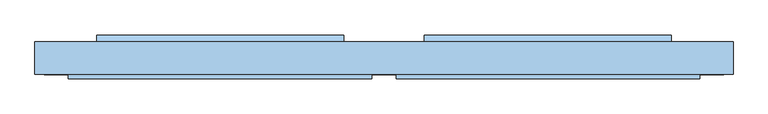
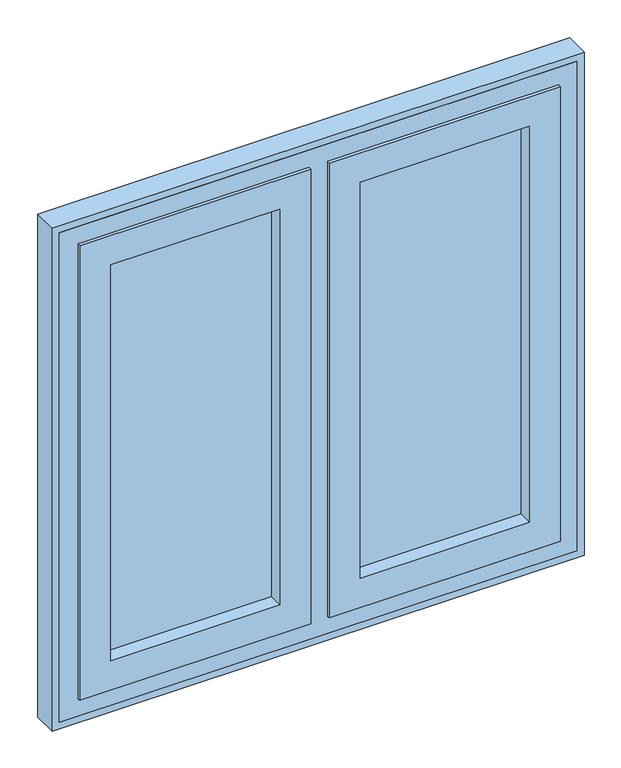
"""IFC4 building model written with IfcOpenShell, lengths in millimetres: window geometry, Окно.Alumark_двустворчатое_S70 : 1460х1460 (правое-откидное)."""

import ifcopenshell
import ifcopenshell.guid

model = None  # the IFC model being written
_history = None  # IfcOwnerHistory: only IFC2X3 demands one
_inside = {}  # id of a spatial element -> (the spatial element, [elements in it])
_under = {}  # id of a project, library or spatial element -> (it, [spatial elements below it])
_declared = {}  # id of a project -> (the project, [libraries it declares])
_typed = {}  # id of a type object -> (the type object, [elements of that type])
_made_of = {}  # id of a material, layer set ... -> (it, [elements and type objects made of it])


def new_model(schema):
    """Start an empty IFC model of exactly this schema.

    Asked for "IFC4X3", IfcOpenShell would pick the latest addendum, in which some entities
    have other attributes; the version numbers below select the first issue.
    IFC2X3 requires an IfcOwnerHistory on every rooted entity: one is made here for all.
    """
    global model, _history
    if schema == "IFC4X3":
        model = ifcopenshell.file(schema_version=(4, 3, 0, 0))
    else:
        model = ifcopenshell.file(schema=schema)
    _inside.clear()
    _under.clear()
    _declared.clear()
    _typed.clear()
    _made_of.clear()
    _history = None
    if model.schema == "IFC2X3":
        org = make("IfcOrganization", Name="unknown")
        user = make(
            "IfcPersonAndOrganization",
            ThePerson=make("IfcPerson", FamilyName="unknown"),
            TheOrganization=org,
        )
        app = make(
            "IfcApplication",
            ApplicationDeveloper=org,
            Version="unknown",
            ApplicationFullName="unknown",
            ApplicationIdentifier="unknown",
        )
        _history = make(
            "IfcOwnerHistory",
            OwningUser=user,
            OwningApplication=app,
            ChangeAction="ADDED",
            CreationDate=0,
        )
    return model


def make(cls, **values):
    """One entity of the class cls with the attributes given. An attribute that is None is left unset."""
    return model.create_entity(
        cls, **{name: value for name, value in values.items() if value is not None}
    )


def rooted(cls, **values):
    """An entity with a GlobalId (a new one), such as an element, a storey or a relation."""
    return make(cls, GlobalId=ifcopenshell.guid.new(), OwnerHistory=_history, **values)


def si_unit(unit_type, name, prefix=None):
    """IfcSIUnit, for example si_unit("LENGTHUNIT", "METRE", prefix="MILLI")."""
    return make("IfcSIUnit", UnitType=unit_type, Prefix=prefix, Name=name)


def assignment(units):
    """IfcUnitAssignment: the units of a project."""
    return None if units is None else make("IfcUnitAssignment", Units=units)


def point(xyz):
    """IfcCartesianPoint."""
    return None if xyz is None else make("IfcCartesianPoint", Coordinates=xyz)


def direction(xyz):
    """IfcDirection."""
    return None if xyz is None else make("IfcDirection", DirectionRatios=xyz)


def frame(location, z_axis=None, x_axis=None):
    """IfcAxis2Placement3D, a coordinate frame: its origin and axes. An axis left out is left unset."""
    return make(
        "IfcAxis2Placement3D",
        Location=point(location),
        Axis=direction(z_axis),
        RefDirection=direction(x_axis),
    )


def origin():
    """The frame at (0, 0, 0) with its axes left unset."""
    return frame((0.0, 0.0, 0.0))


def place(relative_to, where):
    """IfcLocalPlacement: puts the frame where relative to a parent placement (None: the world)."""
    return make(
        "IfcLocalPlacement", PlacementRelTo=relative_to, RelativePlacement=where
    )


def context(
    kind, dimensions, precision=None, world=None, true_north=None, identifier=None
):
    """IfcGeometricRepresentationContext, for example the 3D "Model" context."""
    return make(
        "IfcGeometricRepresentationContext",
        ContextIdentifier=identifier,
        ContextType=kind,
        CoordinateSpaceDimension=dimensions,
        Precision=precision,
        WorldCoordinateSystem=world,
        TrueNorth=true_north,
    )


def project(units=None, contexts=None):
    """IfcProject with its units and contexts."""
    return rooted(
        "IfcProject",
        Name="project",
        RepresentationContexts=contexts,
        UnitsInContext=assignment(units),
    )


def spatial(cls, under=None, at=None, **own):
    """A site, building, storey or space (cls), placed at a placement, below another one or the project."""
    s = rooted(cls, ObjectPlacement=at, **own)
    if under is not None:
        _under.setdefault(under.id(), (under, []))[1].append(s)
    return s


def polyline(points):
    """IfcPolyline through the points."""
    return make("IfcPolyline", Points=[point(p) for p in points])


def outline(outer, holes=None, kind="AREA"):
    """IfcArbitraryClosedProfileDef: a profile drawn as a closed curve; with holes, ...WithVoids."""
    if holes is None:
        return make("IfcArbitraryClosedProfileDef", ProfileType=kind, OuterCurve=outer)
    return make(
        "IfcArbitraryProfileDefWithVoids",
        ProfileType=kind,
        OuterCurve=outer,
        InnerCurves=holes,
    )


def extrude(swept, where, along, depth):
    """IfcExtrudedAreaSolid: the profile swept, set in the frame where, extruded along a direction by depth."""
    return make(
        "IfcExtrudedAreaSolid",
        SweptArea=swept,
        Position=where,
        ExtrudedDirection=direction(along),
        Depth=depth,
    )


def faces_of(points, faces, orient=None, outer=None):
    """IfcFace entities. A face is a list of loops; a loop is a list of indices into points, from 0.

    orient and outer hold one flag for each loop. By default every Orientation is true, the
    first loop of a face is its IfcFaceOuterBound and the others are IfcFaceBound.
    """
    made = []
    for i, loops in enumerate(faces):
        bounds = []
        for j, loop in enumerate(loops):
            is_outer = j == 0 if outer is None else outer[i][j]
            bounds.append(
                make(
                    "IfcFaceOuterBound" if is_outer else "IfcFaceBound",
                    Bound=make("IfcPolyLoop", Polygon=[points[k] for k in loop]),
                    Orientation=True if orient is None else orient[i][j],
                )
            )
        made.append(make("IfcFace", Bounds=bounds))
    return made


def faceted_brep(points, faces, orient=None, outer=None, voids=None):
    """IfcFacetedBrep: a solid bounded by flat faces; with voids (closed shells), ...WithVoids."""
    shared = [point(p) for p in points]
    hull = make("IfcClosedShell", CfsFaces=faces_of(shared, faces, orient, outer))
    if voids is None:
        return make("IfcFacetedBrep", Outer=hull)
    return make(
        "IfcFacetedBrepWithVoids",
        Outer=hull,
        Voids=[
            make(cls, CfsFaces=faces_of(shared, fs, o, b)) for cls, fs, o, b in voids
        ],
    )


def shape(context_of_items, identifier, shape_type, items):
    """IfcShapeRepresentation: the items that make up one representation, for example the "Body"."""
    return make(
        "IfcShapeRepresentation",
        ContextOfItems=context_of_items,
        RepresentationIdentifier=identifier,
        RepresentationType=shape_type,
        Items=items,
    )


def source(mapping_origin, context_of_items, identifier, shape_type, items):
    """IfcRepresentationMap: a shape defined once, which mapped items show again and again."""
    return make(
        "IfcRepresentationMap",
        MappingOrigin=mapping_origin,
        MappedRepresentation=shape(context_of_items, identifier, shape_type, items),
    )


def transform(
    local_origin,
    x_axis=None,
    y_axis=None,
    z_axis=None,
    scale=None,
    scale2=None,
    scale3=None,
    uniform=True,
):
    """IfcCartesianTransformationOperator3D, or its non-uniform kind. x_axis, y_axis, z_axis: its Axis1, 2, 3."""
    if uniform:
        return make(
            "IfcCartesianTransformationOperator3D",
            Axis1=direction(x_axis),
            Axis2=direction(y_axis),
            LocalOrigin=point(local_origin),
            Scale=scale,
            Axis3=direction(z_axis),
        )
    return make(
        "IfcCartesianTransformationOperator3DnonUniform",
        Axis1=direction(x_axis),
        Axis2=direction(y_axis),
        LocalOrigin=point(local_origin),
        Scale=scale,
        Axis3=direction(z_axis),
        Scale2=scale2,
        Scale3=scale3,
    )


def mapped(mapping_source, mapping_target):
    """IfcMappedItem: shows the shape of a source again, moved by a transform."""
    return make(
        "IfcMappedItem", MappingSource=mapping_source, MappingTarget=mapping_target
    )


def made_of(thing, what):
    """Note that an element or type object is made of a material, layer set ...; save() writes the relation."""
    if what is not None:
        _made_of.setdefault(what.id(), (what, []))[1].append(thing)
    return thing


def element(
    cls,
    number,
    at=None,
    inside=None,
    cuts=None,
    type_object=None,
    material=None,
    context=None,
    identifier="Body",
    shape_type=None,
    held_by="IfcProductDefinitionShape",
    body=None,
    shapes=None,
    **own,
):
    """One element of the class cls, such as IfcWall. Its Tag is "e" and its number.

    at: its placement. inside: the storey or other place that contains it. cuts: it is an
    opening in that element (IfcRelVoidsElement). A single representation is given by context,
    identifier, shape_type and body (its items); several are given by shapes. held_by: the class
    of the entity that holds the representations. save() writes the other relations.
    """
    e = rooted(cls, Tag="e%d" % number, ObjectPlacement=at, **own)
    if body is not None:
        shapes = [shape(context, identifier, shape_type, body)]
    if shapes is not None:
        e.Representation = make(held_by, Representations=shapes)
    if inside is not None:
        _inside.setdefault(inside.id(), (inside, []))[1].append(e)
    if cuts is not None:
        rooted(
            "IfcRelVoidsElement", RelatingBuildingElement=cuts, RelatedOpeningElement=e
        )
    if type_object is not None:
        _typed.setdefault(type_object.id(), (type_object, []))[1].append(e)
    return made_of(e, material)


def aggregate(whole, parts):
    """IfcRelAggregates: a whole, such as a stair, and the parts it consists of."""
    return rooted("IfcRelAggregates", RelatingObject=whole, RelatedObjects=parts)


def save(model, path):
    """Write the relations noted so far, then the file.

    IfcRelAggregates (storeys below a building ...), IfcRelContainedInSpatialStructure (elements
    in a storey), IfcRelDefinesByType, IfcRelAssociatesMaterial and IfcRelDeclares: one each for
    every whole, place, type object, material and project.
    """
    for whole, parts in _under.values():
        aggregate(whole, parts)
    for where, things in _inside.values():
        rooted(
            "IfcRelContainedInSpatialStructure",
            RelatedElements=things,
            RelatingStructure=where,
        )
    for kind, things in _typed.values():
        rooted("IfcRelDefinesByType", RelatedObjects=things, RelatingType=kind)
    for what, things in _made_of.values():
        rooted("IfcRelAssociatesMaterial", RelatedObjects=things, RelatingMaterial=what)
    for by, libraries in _declared.values():
        rooted("IfcRelDeclares", RelatingContext=by, RelatedDefinitions=libraries)
    model.write(path)


def window_0f3135ca(model_context):
    return source(origin(), model_context, "Body", "SolidModel", [
        faceted_brep([(-678.0, 21.0, 972.0), (-678.0, 30.0, 972.0), (-26.0, 30.0, 972.0), (-26.0, 21.0, 972.0), (-647.0, 91.0, 1003.0), (-647.0, 100.0, 1003.0), (-57.0, 100.0, 1003.0), (-57.0, 91.0, 1003.0), (-590.0, 100.0, 1060.0), (-590.0, 21.0, 1060.0), (-114.0, 21.0, 1060.0), (-114.0, 100.0, 1060.0), (-26.0, 30.0, 2328.0), (-26.0, 21.0, 2328.0), (-57.0, 100.0, 2297.0), (-57.0, 91.0, 2297.0), (-114.0, 21.0, 2240.0), (-114.0, 100.0, 2240.0), (-678.0, 30.0, 2328.0), (-678.0, 21.0, 2328.0), (-647.0, 100.0, 2297.0), (-647.0, 91.0, 2297.0), (-590.0, 21.0, 2240.0), (-590.0, 100.0, 2240.0), (-653.0, 91.0, 997.0), (-653.0, 91.0, 2303.0), (-51.0, 91.0, 2303.0), (-51.0, 91.0, 997.0), (-653.0, 30.0, 997.0), (-51.0, 30.0, 997.0), (-51.0, 30.0, 2303.0), (-653.0, 30.0, 2303.0)], [[[0, 1, 2, 3]], [[4, 5, 6, 7]], [[8, 9, 10, 11]], [[3, 2, 12, 13]], [[7, 6, 14, 15]], [[11, 10, 16, 17]], [[13, 12, 18, 19]], [[15, 14, 20, 21]], [[17, 16, 22, 23]], [[19, 18, 1, 0]], [[5, 20, 14, 6], [11, 17, 23, 8]], [[21, 20, 5, 4]], [[24, 25, 26, 27], [7, 15, 21, 4]], [[23, 22, 9, 8]], [[3, 13, 19, 0], [9, 22, 16, 10]], [[28, 24, 27, 29]], [[29, 27, 26, 30]], [[30, 26, 25, 31]], [[1, 18, 12, 2], [29, 30, 31, 28]], [[31, 25, 24, 28]]]),
        extrude(outline(polyline([(-114.0, 61.0), (-590.0, 61.0), (-590.0, 91.0), (-114.0, 91.0), (-114.0, 61.0)])), frame((0.0, 0.0, 1060.0), z_axis=(0.0, 0.0, 1.0), x_axis=(1.0, 0.0, 0.0)), (0.0, 0.0, 1.0), 1180.0),
        extrude(outline(polyline([(115.0, 1003.0), (100.0, 1003.0), (100.0, 1015.5), (115.0, 1008.0), (115.0, 1003.0)])), frame((-617.0, 0.0, 0.0), z_axis=(1.0, 0.0, 0.0), x_axis=(0.0, 1.0, 0.0)), (0.0, 0.0, 1.0), 530.0),
        faceted_brep([(26.0, 21.0, 972.0), (26.0, 30.0, 972.0), (678.0, 30.0, 972.0), (678.0, 21.0, 972.0), (57.0, 91.0, 1003.0), (57.0, 100.0, 1003.0), (647.0, 100.0, 1003.0), (647.0, 91.0, 1003.0), (114.0, 100.0, 1060.0), (114.0, 21.0, 1060.0), (590.0, 21.0, 1060.0), (590.0, 100.0, 1060.0), (678.0, 30.0, 2328.0), (678.0, 21.0, 2328.0), (647.0, 100.0, 2297.0), (647.0, 91.0, 2297.0), (590.0, 21.0, 2240.0), (590.0, 100.0, 2240.0), (26.0, 30.0, 2328.0), (26.0, 21.0, 2328.0), (57.0, 100.0, 2297.0), (57.0, 91.0, 2297.0), (114.0, 21.0, 2240.0), (114.0, 100.0, 2240.0), (51.0, 91.0, 997.0), (51.0, 91.0, 2303.0), (653.0, 91.0, 2303.0), (653.0, 91.0, 997.0), (51.0, 30.0, 997.0), (653.0, 30.0, 997.0), (653.0, 30.0, 2303.0), (51.0, 30.0, 2303.0)], [[[0, 1, 2, 3]], [[4, 5, 6, 7]], [[8, 9, 10, 11]], [[3, 2, 12, 13]], [[7, 6, 14, 15]], [[11, 10, 16, 17]], [[13, 12, 18, 19]], [[15, 14, 20, 21]], [[17, 16, 22, 23]], [[19, 18, 1, 0]], [[5, 20, 14, 6], [11, 17, 23, 8]], [[21, 20, 5, 4]], [[24, 25, 26, 27], [7, 15, 21, 4]], [[23, 22, 9, 8]], [[3, 13, 19, 0], [9, 22, 16, 10]], [[28, 24, 27, 29]], [[29, 27, 26, 30]], [[30, 26, 25, 31]], [[1, 18, 12, 2], [29, 30, 31, 28]], [[31, 25, 24, 28]]]),
        extrude(outline(polyline([(590.0, 61.0), (114.0, 61.0), (114.0, 91.0), (590.0, 91.0), (590.0, 61.0)])), frame((0.0, 0.0, 1060.0), z_axis=(0.0, 0.0, 1.0), x_axis=(1.0, 0.0, 0.0)), (0.0, 0.0, 1.0), 1180.0),
        extrude(outline(polyline([(115.0, 1003.0), (100.0, 1003.0), (100.0, 1015.5), (115.0, 1008.0), (115.0, 1003.0)])), frame((87.0, 0.0, 0.0), z_axis=(1.0, 0.0, 0.0), x_axis=(0.0, 1.0, 0.0)), (0.0, 0.0, 1.0), 530.0),
        extrude(outline(polyline([(920.0, 730.0), (2380.0, 730.0), (2380.0, -730.0), (920.0, -730.0), (920.0, 730.0)]), holes=[polyline([(2303.0, -653.0), (2303.0, -51.0), (997.0, -51.0), (997.0, -653.0), (2303.0, -653.0)]), polyline([(2303.0, 653.0), (997.0, 653.0), (997.0, 51.0), (2303.0, 51.0), (2303.0, 653.0)])]), frame((0.0, 30.0, 0.0), z_axis=(0.0, 1.0, 0.0), x_axis=(0.0, 0.0, 1.0)), (0.0, 0.0, 1.0), 70.0),
        extrude(outline(polyline([(2400.0, 750.0), (2400.0, -750.0), (900.0, -750.0), (900.0, 750.0), (2400.0, 750.0)]), holes=[polyline([(920.0, -730.0), (2380.0, -730.0), (2380.0, 730.0), (920.0, 730.0), (920.0, -730.0)])]), frame((0.0, 30.0, 0.0), z_axis=(0.0, 1.0, 0.0), x_axis=(0.0, 0.0, 1.0)), (0.0, 0.0, 1.0), 70.0),
    ])


if __name__ == "__main__":
    model = new_model("IFC4")
    model_context = context("Model", 3, world=origin())
    ifc_project = project(units=[si_unit("LENGTHUNIT", "METRE", prefix="MILLI")], contexts=[model_context])
    site = spatial("IfcSite", under=ifc_project)
    building = spatial("IfcBuilding", under=site)
    placement = place(None, origin())
    window_shape = window_0f3135ca(model_context)
    element("IfcWindow", 1, ObjectType="Окно.Alumark_двустворчатое_S70 : 1460х1460 (правое-откидное)", at=placement, inside=building, context=model_context, shape_type="MappedRepresentation", body=[
        mapped(window_shape, transform((0.0, 0.0, 0.0), x_axis=(1.0, 0.0, 0.0), y_axis=(0.0, 1.0, 0.0), z_axis=(0.0, 0.0, 1.0))),
    ])
    save(model, "model.ifc")
